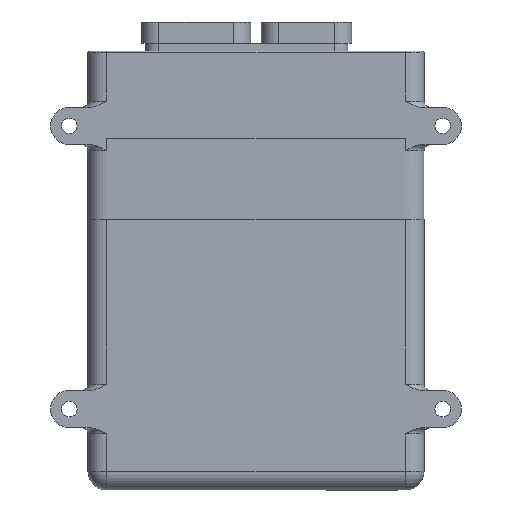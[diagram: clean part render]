
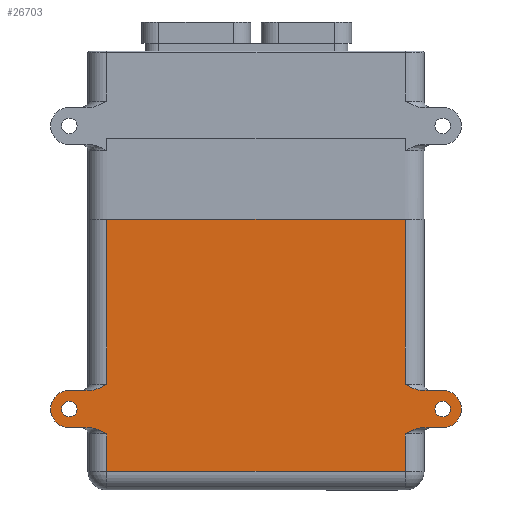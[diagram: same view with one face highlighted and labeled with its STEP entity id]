
A CAD part, front view. The second image highlights one B-rep face of the part: STEP entity #26703.
In plain terms, the highlighted planar face has unit normal (0, -1, 0) as drawn and (0, 0, -1) by its records, which use the part's own axes.
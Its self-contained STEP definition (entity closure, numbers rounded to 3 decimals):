
#131=B_SPLINE_CURVE_WITH_KNOTS('',3,(#46552,#46553,#46554,#46555,#46556,
#46557),.UNSPECIFIED.,.F.,.F.,(4,2,4),(-0.546,-0.273,
0.),.UNSPECIFIED.);
#132=B_SPLINE_CURVE_WITH_KNOTS('',3,(#46564,#46565,#46566,#46567,#46568,
#46569),.UNSPECIFIED.,.F.,.F.,(4,2,4),(1.252,1.525,
1.798),.UNSPECIFIED.);
#133=B_SPLINE_CURVE_WITH_KNOTS('',3,(#46571,#46572,#46573,#46574,#46575,
#46576),.UNSPECIFIED.,.F.,.F.,(4,2,4),(-0.546,-0.273,
0.),.UNSPECIFIED.);
#134=B_SPLINE_CURVE_WITH_KNOTS('',3,(#46583,#46584,#46585,#46586,#46587,
#46588),.UNSPECIFIED.,.F.,.F.,(4,2,4),(1.252,1.525,
1.798),.UNSPECIFIED.);
#811=FACE_BOUND('',#4435,.T.);
#812=FACE_BOUND('',#4436,.T.);
#1349=PLANE('',#29750);
#2547=FACE_OUTER_BOUND('',#4434,.T.);
#4434=EDGE_LOOP('',(#23029,#23030,#23031,#23032,#23033,#23034,#23035,#23036,
#23037,#23038,#23039,#23040,#23041,#23042,#23043,#23044));
#4435=EDGE_LOOP('',(#23045,#23046));
#4436=EDGE_LOOP('',(#23047,#23048));
#6390=LINE('',#45812,#8328);
#6393=LINE('',#45825,#8331);
#6445=LINE('',#46111,#8383);
#6465=LINE('',#46544,#8403);
#6466=LINE('',#46549,#8404);
#6467=LINE('',#46550,#8405);
#6468=LINE('',#46559,#8406);
#6469=LINE('',#46563,#8407);
#6470=LINE('',#46578,#8408);
#6471=LINE('',#46582,#8409);
#8328=VECTOR('',#37015,1.);
#8331=VECTOR('',#37026,1.);
#8383=VECTOR('',#37172,1.);
#8403=VECTOR('',#37212,1.);
#8404=VECTOR('',#37217,1.);
#8405=VECTOR('',#37218,1.);
#8406=VECTOR('',#37219,1.);
#8407=VECTOR('',#37222,1.);
#8408=VECTOR('',#37223,1.);
#8409=VECTOR('',#37226,1.);
#10186=CIRCLE('',#29751,6.);
#10187=CIRCLE('',#29752,6.);
#10188=CIRCLE('',#29753,2.5);
#10189=CIRCLE('',#29754,2.5);
#10190=CIRCLE('',#29755,2.5);
#10191=CIRCLE('',#29756,2.5);
#12610=VERTEX_POINT('',#45810);
#12611=VERTEX_POINT('',#45811);
#12616=VERTEX_POINT('',#45822);
#12617=VERTEX_POINT('',#45824);
#12718=VERTEX_POINT('',#46541);
#12719=VERTEX_POINT('',#46543);
#12720=VERTEX_POINT('',#46547);
#12721=VERTEX_POINT('',#46548);
#12722=VERTEX_POINT('',#46551);
#12723=VERTEX_POINT('',#46558);
#12724=VERTEX_POINT('',#46560);
#12725=VERTEX_POINT('',#46562);
#12726=VERTEX_POINT('',#46570);
#12727=VERTEX_POINT('',#46577);
#12728=VERTEX_POINT('',#46579);
#12729=VERTEX_POINT('',#46581);
#12730=VERTEX_POINT('',#46589);
#12731=VERTEX_POINT('',#46590);
#12732=VERTEX_POINT('',#46593);
#12733=VERTEX_POINT('',#46594);
#16165=EDGE_CURVE('',#12610,#12611,#6390,.T.);
#16171=EDGE_CURVE('',#12616,#12617,#6393,.T.);
#16264=EDGE_CURVE('',#12611,#12617,#6445,.T.);
#16297=EDGE_CURVE('',#12719,#12718,#6465,.T.);
#16299=EDGE_CURVE('',#12720,#12721,#6466,.T.);
#16300=EDGE_CURVE('',#12720,#12719,#6467,.F.);
#16301=EDGE_CURVE('',#12718,#12722,#131,.F.);
#16302=EDGE_CURVE('',#12723,#12722,#6468,.T.);
#16303=EDGE_CURVE('',#12724,#12723,#10186,.T.);
#16304=EDGE_CURVE('',#12725,#12724,#6469,.T.);
#16305=EDGE_CURVE('',#12725,#12610,#132,.T.);
#16306=EDGE_CURVE('',#12616,#12726,#133,.F.);
#16307=EDGE_CURVE('',#12726,#12727,#6470,.T.);
#16308=EDGE_CURVE('',#12727,#12728,#10187,.T.);
#16309=EDGE_CURVE('',#12728,#12729,#6471,.T.);
#16310=EDGE_CURVE('',#12729,#12721,#134,.T.);
#16311=EDGE_CURVE('',#12730,#12731,#10188,.T.);
#16312=EDGE_CURVE('',#12731,#12730,#10189,.T.);
#16313=EDGE_CURVE('',#12732,#12733,#10190,.T.);
#16314=EDGE_CURVE('',#12733,#12732,#10191,.T.);
#23029=ORIENTED_EDGE('',*,*,#16299,.F.);
#23030=ORIENTED_EDGE('',*,*,#16300,.T.);
#23031=ORIENTED_EDGE('',*,*,#16297,.T.);
#23032=ORIENTED_EDGE('',*,*,#16301,.T.);
#23033=ORIENTED_EDGE('',*,*,#16302,.F.);
#23034=ORIENTED_EDGE('',*,*,#16303,.F.);
#23035=ORIENTED_EDGE('',*,*,#16304,.F.);
#23036=ORIENTED_EDGE('',*,*,#16305,.T.);
#23037=ORIENTED_EDGE('',*,*,#16165,.T.);
#23038=ORIENTED_EDGE('',*,*,#16264,.T.);
#23039=ORIENTED_EDGE('',*,*,#16171,.F.);
#23040=ORIENTED_EDGE('',*,*,#16306,.T.);
#23041=ORIENTED_EDGE('',*,*,#16307,.T.);
#23042=ORIENTED_EDGE('',*,*,#16308,.T.);
#23043=ORIENTED_EDGE('',*,*,#16309,.T.);
#23044=ORIENTED_EDGE('',*,*,#16310,.T.);
#23045=ORIENTED_EDGE('',*,*,#16311,.F.);
#23046=ORIENTED_EDGE('',*,*,#16312,.F.);
#23047=ORIENTED_EDGE('',*,*,#16313,.T.);
#23048=ORIENTED_EDGE('',*,*,#16314,.T.);
#26703=ADVANCED_FACE('',(#2547,#811,#812),#1349,.F.);
#29750=AXIS2_PLACEMENT_3D('',#46546,#37215,#37216);
#29751=AXIS2_PLACEMENT_3D('',#46561,#37220,#37221);
#29752=AXIS2_PLACEMENT_3D('',#46580,#37224,#37225);
#29753=AXIS2_PLACEMENT_3D('',#46591,#37227,#37228);
#29754=AXIS2_PLACEMENT_3D('',#46592,#37229,#37230);
#29755=AXIS2_PLACEMENT_3D('',#46595,#37231,#37232);
#29756=AXIS2_PLACEMENT_3D('',#46596,#37233,#37234);
#37015=DIRECTION('',(0.,-1.,0.));
#37026=DIRECTION('',(0.,-1.,0.));
#37172=DIRECTION('',(-1.,0.,0.));
#37212=DIRECTION('',(0.,-1.,0.));
#37215=DIRECTION('center_axis',(0.,0.,1.));
#37216=DIRECTION('ref_axis',(1.,0.,0.));
#37217=DIRECTION('',(0.,-1.,0.));
#37218=DIRECTION('',(-1.,0.,0.));
#37219=DIRECTION('',(-1.,0.,0.));
#37220=DIRECTION('center_axis',(0.,0.,1.));
#37221=DIRECTION('ref_axis',(0.,-1.,0.));
#37222=DIRECTION('',(1.,0.,0.));
#37223=DIRECTION('',(-1.,0.,0.));
#37224=DIRECTION('center_axis',(0.,0.,-1.));
#37225=DIRECTION('ref_axis',(0.,-1.,0.));
#37226=DIRECTION('',(1.,0.,0.));
#37227=DIRECTION('center_axis',(0.,0.,-1.));
#37228=DIRECTION('ref_axis',(0.,-1.,0.));
#37229=DIRECTION('center_axis',(0.,0.,-1.));
#37230=DIRECTION('ref_axis',(0.,-1.,0.));
#37231=DIRECTION('center_axis',(0.,0.,1.));
#37232=DIRECTION('ref_axis',(0.,-1.,0.));
#37233=DIRECTION('center_axis',(0.,0.,1.));
#37234=DIRECTION('ref_axis',(0.,-1.,0.));
#45810=CARTESIAN_POINT('',(237.046,127.466,-8.6));
#45811=CARTESIAN_POINT('',(237.046,74.466,-8.6));
#45812=CARTESIAN_POINT('',(237.046,161.466,-8.6));
#45822=CARTESIAN_POINT('',(141.046,127.466,-8.6));
#45824=CARTESIAN_POINT('',(141.046,74.466,-8.6));
#45825=CARTESIAN_POINT('',(141.046,161.466,-8.6));
#46111=CARTESIAN_POINT('',(237.046,74.466,-8.6));
#46541=CARTESIAN_POINT('',(237.046,143.466,-8.6));
#46543=CARTESIAN_POINT('',(237.046,155.466,-8.6));
#46544=CARTESIAN_POINT('',(237.046,161.466,-8.6));
#46546=CARTESIAN_POINT('Origin',(237.046,161.466,-8.6));
#46547=CARTESIAN_POINT('',(141.046,155.466,-8.6));
#46548=CARTESIAN_POINT('',(141.046,143.466,-8.6));
#46549=CARTESIAN_POINT('',(141.046,161.466,-8.6));
#46550=CARTESIAN_POINT('',(237.046,155.466,-8.6));
#46551=CARTESIAN_POINT('',(242.338,141.466,-8.6));
#46552=CARTESIAN_POINT('Ctrl Pts',(242.338,141.466,-8.6));
#46553=CARTESIAN_POINT('Ctrl Pts',(241.427,141.466,-8.6));
#46554=CARTESIAN_POINT('Ctrl Pts',(240.497,141.734,-8.6));
#46555=CARTESIAN_POINT('Ctrl Pts',(238.701,142.507,-8.6));
#46556=CARTESIAN_POINT('Ctrl Pts',(237.835,143.011,-8.6));
#46557=CARTESIAN_POINT('Ctrl Pts',(237.046,143.466,-8.6));
#46558=CARTESIAN_POINT('',(249.046,141.466,-8.6));
#46559=CARTESIAN_POINT('',(246.046,141.466,-8.6));
#46560=CARTESIAN_POINT('',(249.046,129.466,-8.6));
#46561=CARTESIAN_POINT('Origin',(249.046,135.466,-8.6));
#46562=CARTESIAN_POINT('',(242.338,129.466,-8.6));
#46563=CARTESIAN_POINT('',(246.046,129.466,-8.6));
#46564=CARTESIAN_POINT('Ctrl Pts',(242.338,129.466,-8.6));
#46565=CARTESIAN_POINT('Ctrl Pts',(241.427,129.466,-8.6));
#46566=CARTESIAN_POINT('Ctrl Pts',(240.497,129.199,-8.6));
#46567=CARTESIAN_POINT('Ctrl Pts',(238.701,128.426,-8.6));
#46568=CARTESIAN_POINT('Ctrl Pts',(237.835,127.922,-8.6));
#46569=CARTESIAN_POINT('Ctrl Pts',(237.046,127.466,-8.6));
#46570=CARTESIAN_POINT('',(135.755,129.466,-8.6));
#46571=CARTESIAN_POINT('Ctrl Pts',(135.755,129.466,-8.6));
#46572=CARTESIAN_POINT('Ctrl Pts',(136.665,129.466,-8.6));
#46573=CARTESIAN_POINT('Ctrl Pts',(137.596,129.199,-8.6));
#46574=CARTESIAN_POINT('Ctrl Pts',(139.392,128.426,-8.6));
#46575=CARTESIAN_POINT('Ctrl Pts',(140.258,127.922,-8.6));
#46576=CARTESIAN_POINT('Ctrl Pts',(141.046,127.466,-8.6));
#46577=CARTESIAN_POINT('',(129.046,129.466,-8.6));
#46578=CARTESIAN_POINT('',(132.046,129.466,-8.6));
#46579=CARTESIAN_POINT('',(129.046,141.466,-8.6));
#46580=CARTESIAN_POINT('Origin',(129.046,135.466,-8.6));
#46581=CARTESIAN_POINT('',(135.755,141.466,-8.6));
#46582=CARTESIAN_POINT('',(132.046,141.466,-8.6));
#46583=CARTESIAN_POINT('Ctrl Pts',(135.755,141.466,-8.6));
#46584=CARTESIAN_POINT('Ctrl Pts',(136.665,141.466,-8.6));
#46585=CARTESIAN_POINT('Ctrl Pts',(137.596,141.734,-8.6));
#46586=CARTESIAN_POINT('Ctrl Pts',(139.392,142.507,-8.6));
#46587=CARTESIAN_POINT('Ctrl Pts',(140.258,143.011,-8.6));
#46588=CARTESIAN_POINT('Ctrl Pts',(141.046,143.466,-8.6));
#46589=CARTESIAN_POINT('',(129.046,132.965,-8.6));
#46590=CARTESIAN_POINT('',(126.546,135.465,-8.6));
#46591=CARTESIAN_POINT('Origin',(129.046,135.465,-8.6));
#46592=CARTESIAN_POINT('Origin',(129.046,135.465,-8.6));
#46593=CARTESIAN_POINT('',(249.046,132.965,-8.6));
#46594=CARTESIAN_POINT('',(251.546,135.465,-8.6));
#46595=CARTESIAN_POINT('Origin',(249.046,135.465,-8.6));
#46596=CARTESIAN_POINT('Origin',(249.046,135.465,-8.6));
